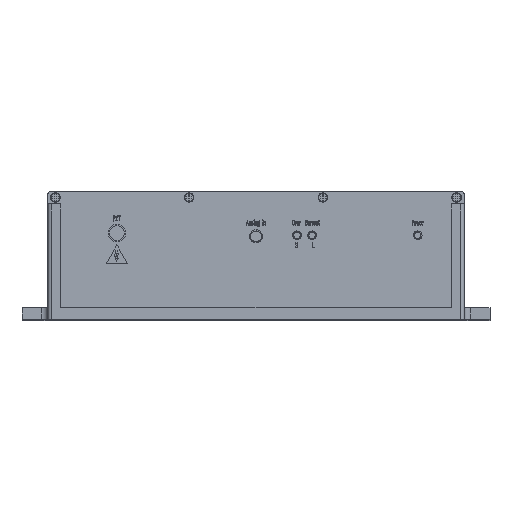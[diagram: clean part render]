
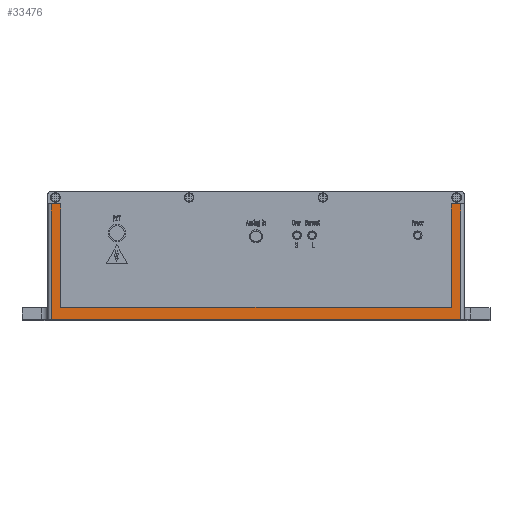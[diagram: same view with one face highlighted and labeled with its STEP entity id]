
A CAD part, top view. The second image highlights one B-rep face of the part: STEP entity #33476.
In plain terms, the highlighted planar face has unit normal (0, 0, 1).
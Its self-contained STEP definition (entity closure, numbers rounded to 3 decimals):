
#3390 = CARTESIAN_POINT ( 'NONE',  ( 90.5, -32.75, 3.75 ) ) ;
#3578 = VERTEX_POINT ( 'NONE', #45557 ) ;
#3846 = LINE ( 'NONE', #23190, #61404 ) ;
#7061 = ORIENTED_EDGE ( 'NONE', *, *, #66184, .F. ) ;
#7159 = ORIENTED_EDGE ( 'NONE', *, *, #16634, .F. ) ;
#7503 = EDGE_CURVE ( 'NONE', #12452, #23020, #63475, .T. ) ;
#8484 = DIRECTION ( 'NONE',  ( 0., 1., 0. ) ) ;
#8862 = LINE ( 'NONE', #45789, #39240 ) ;
#9284 = CARTESIAN_POINT ( 'NONE',  ( 95., -32.75, 3.75 ) ) ;
#9401 = PLANE ( 'NONE',  #31940 ) ;
#10525 = VECTOR ( 'NONE', #16777, 1000. ) ;
#12452 = VERTEX_POINT ( 'NONE', #58860 ) ;
#12678 = VECTOR ( 'NONE', #8484, 1000. ) ;
#12742 = FACE_OUTER_BOUND ( 'NONE', #35074, .T. ) ;
#13036 = VERTEX_POINT ( 'NONE', #40212 ) ;
#14547 = ORIENTED_EDGE ( 'NONE', *, *, #17122, .F. ) ;
#14583 = DIRECTION ( 'NONE',  ( 0., 0., -1. ) ) ;
#14696 = VERTEX_POINT ( 'NONE', #35758 ) ;
#15238 = DIRECTION ( 'NONE',  ( 1., 0., 0. ) ) ;
#15372 = VERTEX_POINT ( 'NONE', #34310 ) ;
#15941 = LINE ( 'NONE', #3390, #12678 ) ;
#16634 = EDGE_CURVE ( 'NONE', #15372, #12452, #15941, .T. ) ;
#16777 = DIRECTION ( 'NONE',  ( 0., -1., 0. ) ) ;
#17122 = EDGE_CURVE ( 'NONE', #57807, #13036, #3846, .T. ) ;
#19713 = DIRECTION ( 'NONE',  ( 1., 0., 0. ) ) ;
#21106 = EDGE_CURVE ( 'NONE', #23020, #63918, #60246, .T. ) ;
#23020 = VERTEX_POINT ( 'NONE', #36029 ) ;
#23190 = CARTESIAN_POINT ( 'NONE',  ( -95., -32.75, 3.75 ) ) ;
#24485 = CARTESIAN_POINT ( 'NONE',  ( 0., -6., 3.75 ) ) ;
#28331 = DIRECTION ( 'NONE',  ( 0., 1., 0. ) ) ;
#30701 = VECTOR ( 'NONE', #34716, 1000. ) ;
#31940 = AXIS2_PLACEMENT_3D ( 'NONE', #45139, #14583, #50266 ) ;
#33476 = ADVANCED_FACE ( 'NONE', ( #12742 ), #9401, .F. ) ;
#34310 = CARTESIAN_POINT ( 'NONE',  ( 90.5, -54., 3.75 ) ) ;
#34655 = VECTOR ( 'NONE', #62376, 1000. ) ;
#34716 = DIRECTION ( 'NONE',  ( 1., 0., 0. ) ) ;
#35012 = LINE ( 'NONE', #55456, #50188 ) ;
#35074 = EDGE_LOOP ( 'NONE', ( #39417, #7159, #56204, #40905, #7061, #14547, #51998, #55021 ) ) ;
#35758 = CARTESIAN_POINT ( 'NONE',  ( -90.5, -6., 3.75 ) ) ;
#36029 = CARTESIAN_POINT ( 'NONE',  ( 95., -6., 3.75 ) ) ;
#39240 = VECTOR ( 'NONE', #15238, 1000. ) ;
#39417 = ORIENTED_EDGE ( 'NONE', *, *, #7503, .F. ) ;
#39880 = DIRECTION ( 'NONE',  ( 0., -1., 0. ) ) ;
#40212 = CARTESIAN_POINT ( 'NONE',  ( -95., -6., 3.75 ) ) ;
#40244 = CARTESIAN_POINT ( 'NONE',  ( -95., -59.5, 3.75 ) ) ;
#40905 = ORIENTED_EDGE ( 'NONE', *, *, #55326, .F. ) ;
#44262 = LINE ( 'NONE', #24485, #30701 ) ;
#44945 = EDGE_CURVE ( 'NONE', #3578, #15372, #8862, .T. ) ;
#45139 = CARTESIAN_POINT ( 'NONE',  ( 95., -59.5, 3.75 ) ) ;
#45557 = CARTESIAN_POINT ( 'NONE',  ( -90.5, -54., 3.75 ) ) ;
#45789 = CARTESIAN_POINT ( 'NONE',  ( 0., -54., 3.75 ) ) ;
#46899 = EDGE_CURVE ( 'NONE', #57807, #63918, #35012, .T. ) ;
#47953 = CARTESIAN_POINT ( 'NONE',  ( 95., -59.5, 3.75 ) ) ;
#49623 = LINE ( 'NONE', #53356, #10525 ) ;
#50188 = VECTOR ( 'NONE', #19713, 1000. ) ;
#50266 = DIRECTION ( 'NONE',  ( -1., 0., 0. ) ) ;
#51998 = ORIENTED_EDGE ( 'NONE', *, *, #46899, .T. ) ;
#53356 = CARTESIAN_POINT ( 'NONE',  ( -90.5, -32.75, 3.75 ) ) ;
#55021 = ORIENTED_EDGE ( 'NONE', *, *, #21106, .F. ) ;
#55326 = EDGE_CURVE ( 'NONE', #14696, #3578, #49623, .T. ) ;
#55456 = CARTESIAN_POINT ( 'NONE',  ( 0., -59.5, 3.75 ) ) ;
#56204 = ORIENTED_EDGE ( 'NONE', *, *, #44945, .F. ) ;
#57227 = CARTESIAN_POINT ( 'NONE',  ( 0., -6., 3.75 ) ) ;
#57807 = VERTEX_POINT ( 'NONE', #40244 ) ;
#58643 = VECTOR ( 'NONE', #39880, 1000. ) ;
#58860 = CARTESIAN_POINT ( 'NONE',  ( 90.5, -6., 3.75 ) ) ;
#60246 = LINE ( 'NONE', #9284, #58643 ) ;
#61404 = VECTOR ( 'NONE', #28331, 1000. ) ;
#62376 = DIRECTION ( 'NONE',  ( 1., 0., 0. ) ) ;
#63475 = LINE ( 'NONE', #57227, #34655 ) ;
#63918 = VERTEX_POINT ( 'NONE', #47953 ) ;
#66184 = EDGE_CURVE ( 'NONE', #13036, #14696, #44262, .T. ) ;
